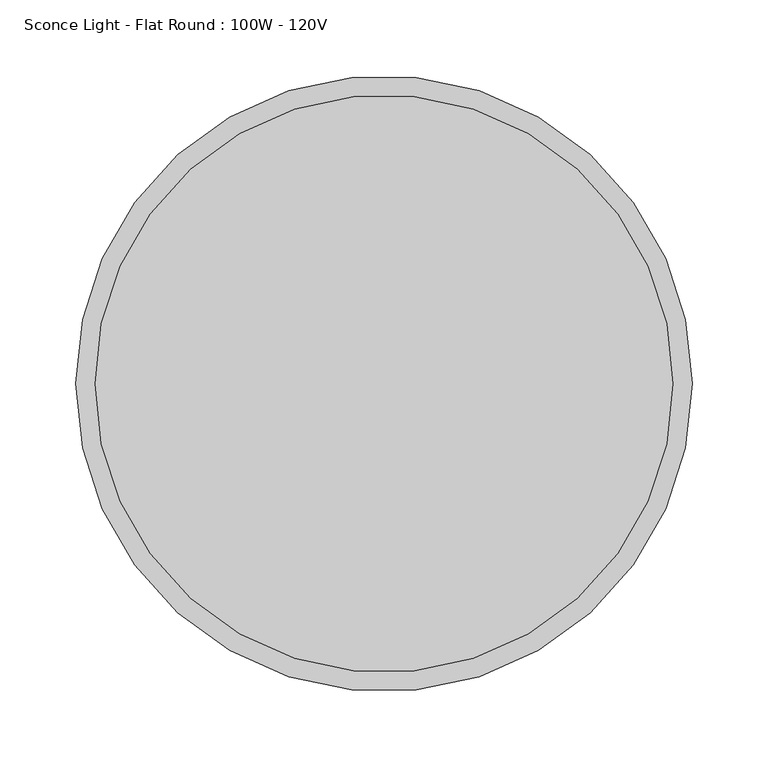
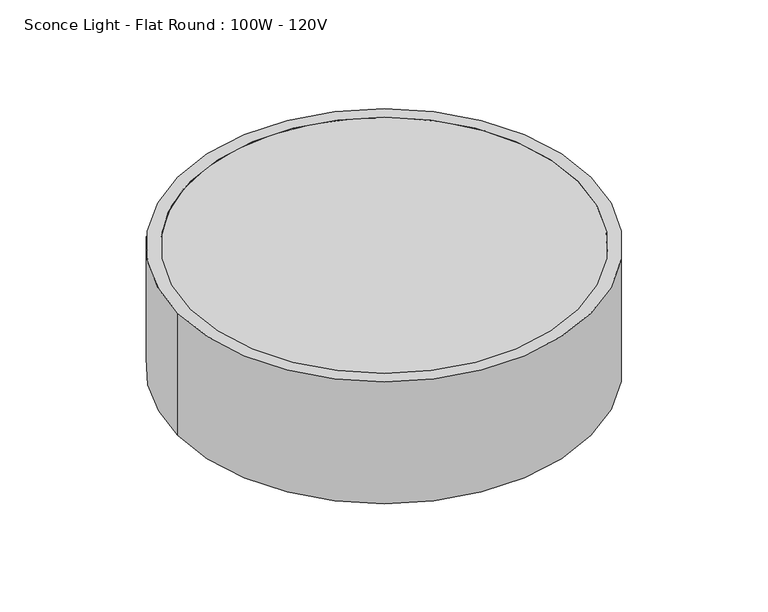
"""IFC4 building model written with IfcOpenShell, lengths in millimetres: light fixture geometry, Sconce Light - Flat Round : 100W - 120V."""

from ifc_helpers import new_model, si_unit, point, frame, origin, origin_with_axes, origin_2d, place, context, project, spatial, circle_curve, trimmed, segment, composite_curve, outline, extrude, source, transform, mapped, element, save


def sconce_light_flat_round_100w_120v_d640190c(model_context):
    return source(origin(), model_context, "Body", "SweptSolid", [
        extrude(outline(composite_curve([segment(trimmed(circle_curve(origin_2d(), 203.2), [point((-203.2, 0.0))], [point((203.2, 0.0))], False, "CARTESIAN"), True, "CONTINUOUS"), segment(trimmed(circle_curve(origin_2d(), 203.2), [point((203.2, 0.0))], [point((-203.2, 0.0))], False, "CARTESIAN"), True, "CONTINUOUS")], self_intersect=False), holes=[composite_curve([segment(trimmed(circle_curve(origin_2d(), 190.5), [point((-190.5, 0.0))], [point((190.5, 0.0))], True, "CARTESIAN"), True, "CONTINUOUS"), segment(trimmed(circle_curve(origin_2d(), 190.5), [point((190.5, 0.0))], [point((-190.5, 0.0))], True, "CARTESIAN"), True, "CONTINUOUS")], self_intersect=False)]), origin_with_axes(), (0.0, 0.0, 1.0), 127.0),
        extrude(outline(composite_curve([segment(trimmed(circle_curve(origin_2d(), 203.2), [point((-203.2, 0.0))], [point((203.2, 0.0))], False, "CARTESIAN"), True, "CONTINUOUS"), segment(trimmed(circle_curve(origin_2d(), 203.2), [point((203.2, 0.0))], [point((-203.2, 0.0))], False, "CARTESIAN"), True, "CONTINUOUS")], self_intersect=False)), frame((0.0, 0.0, 114.3), z_axis=(0.0, 0.0, 1.0), x_axis=(1.0, 0.0, 0.0)), (0.0, 0.0, 1.0), 12.7),
        extrude(outline(composite_curve([segment(trimmed(circle_curve(origin_2d(), 203.2), [point((-203.2, 0.0))], [point((203.2, 0.0))], False, "CARTESIAN"), True, "CONTINUOUS"), segment(trimmed(circle_curve(origin_2d(), 203.2), [point((203.2, 0.0))], [point((-203.2, 0.0))], False, "CARTESIAN"), True, "CONTINUOUS")], self_intersect=False)), origin_with_axes(), (0.0, 0.0, 1.0), 127.0),
    ])


if __name__ == "__main__":
    model = new_model("IFC4")
    model_context = context("Model", 3, world=origin())
    ifc_project = project(units=[si_unit("LENGTHUNIT", "METRE", prefix="MILLI")], contexts=[model_context])
    site = spatial("IfcSite", under=ifc_project)
    building = spatial("IfcBuilding", under=site)
    placement = place(None, origin())
    sconce_light_flat_round_100w_120v_shape = sconce_light_flat_round_100w_120v_d640190c(model_context)
    element("IfcLightFixture", 1, ObjectType="Sconce Light - Flat Round : 100W - 120V", at=placement, inside=building, context=model_context, shape_type="MappedRepresentation", body=[
        mapped(sconce_light_flat_round_100w_120v_shape, transform((0.0, 0.0, 0.0), x_axis=(1.0, 0.0, 0.0), y_axis=(0.0, 1.0, 0.0), z_axis=(0.0, 0.0, 1.0))),
    ])
    save(model, "model.ifc")
